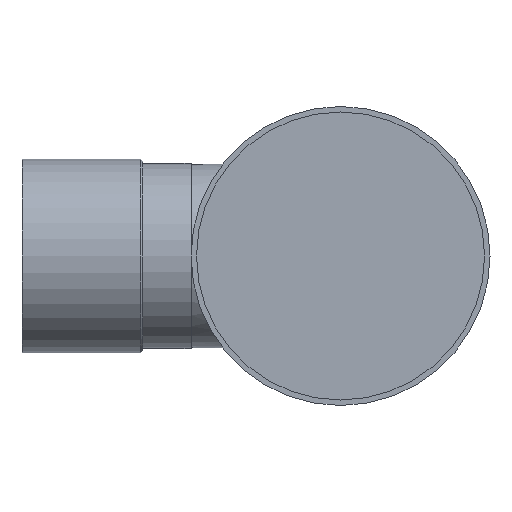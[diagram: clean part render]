
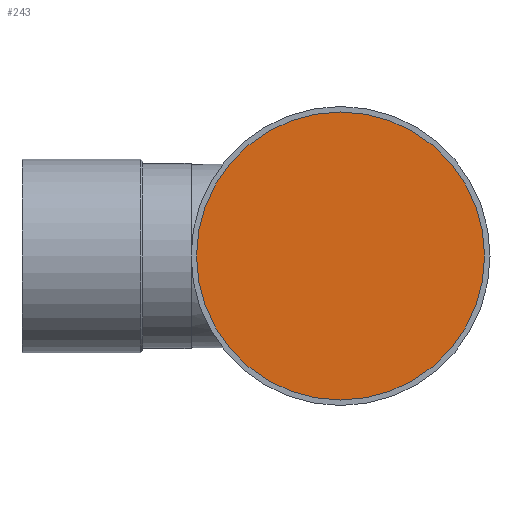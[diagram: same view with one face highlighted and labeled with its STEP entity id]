
A CAD part, front view. The second image highlights one B-rep face of the part: STEP entity #243.
In plain terms, the highlighted planar face has unit normal (0, -1, 0).
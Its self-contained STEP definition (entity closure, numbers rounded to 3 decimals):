
#55=ORIENTED_EDGE('',*,*,#87,.F.);
#87=EDGE_CURVE('',#108,#108,#129,.T.);
#108=VERTEX_POINT('',#430);
#129=CIRCLE('',#288,69.85);
#159=EDGE_LOOP('',(#55));
#201=FACE_BOUND('',#159,.T.);
#227=PLANE('',#294);
#243=ADVANCED_FACE('',(#201),#227,.F.);
#288=AXIS2_PLACEMENT_3D('',#429,#354,#355);
#294=AXIS2_PLACEMENT_3D('',#439,#366,#367);
#354=DIRECTION('',(0.,1.,0.));
#355=DIRECTION('',(0.,0.,1.));
#366=DIRECTION('',(0.,1.,0.));
#367=DIRECTION('',(0.,0.,1.));
#429=CARTESIAN_POINT('',(0.,-99.,0.));
#430=CARTESIAN_POINT('',(0.,-99.,69.85));
#439=CARTESIAN_POINT('',(0.,-99.,0.));
